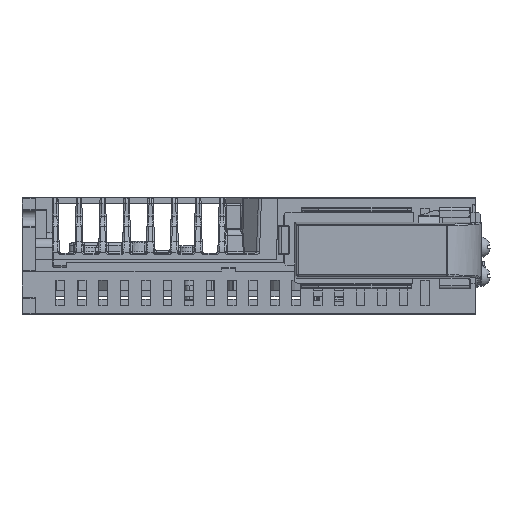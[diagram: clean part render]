
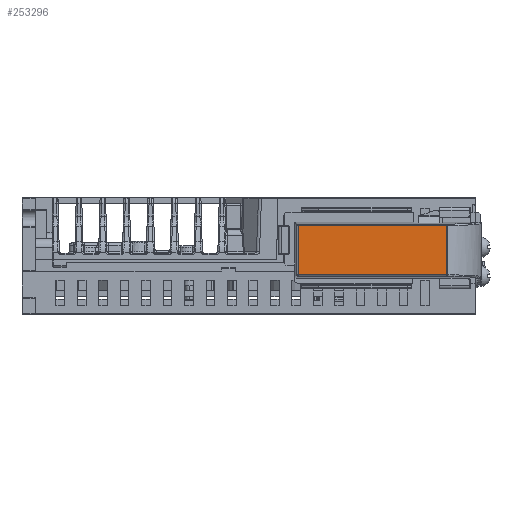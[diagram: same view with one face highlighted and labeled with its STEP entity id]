
A CAD part, left-side view. The second image highlights one B-rep face of the part: STEP entity #253296.
In plain terms, the highlighted planar face has unit normal (-1, 0, 0) as drawn and (0, 1, 0) by its records, which use the part's own axes.
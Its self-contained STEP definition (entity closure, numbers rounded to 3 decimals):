
#251938=DIRECTION('',(1.,0.,0.));
#251939=VECTOR('',#251938,51.19);
#251940=CARTESIAN_POINT('',(1.167,21.,-8.433));
#251941=LINE('',#251940,#251939);
#251945=DIRECTION('',(0.,0.,-1.));
#251946=VECTOR('',#251945,16.865);
#251947=CARTESIAN_POINT('',(52.357,21.,8.433));
#251948=LINE('',#251947,#251946);
#251952=DIRECTION('',(-1.,0.,0.));
#251953=VECTOR('',#251952,51.19);
#251954=CARTESIAN_POINT('',(52.357,21.,8.433));
#251955=LINE('',#251954,#251953);
#251959=DIRECTION('',(0.,0.,-1.));
#251960=VECTOR('',#251959,16.865);
#251961=CARTESIAN_POINT('',(1.167,21.,8.433));
#251962=LINE('',#251961,#251960);
#252442=CARTESIAN_POINT('',(52.357,21.,-8.433));
#252443=VERTEX_POINT('',#252442);
#252446=CARTESIAN_POINT('',(1.167,21.,-8.433));
#252447=VERTEX_POINT('',#252446);
#252452=CARTESIAN_POINT('',(1.167,21.,8.433));
#252453=VERTEX_POINT('',#252452);
#252458=CARTESIAN_POINT('',(52.357,21.,8.433));
#252459=VERTEX_POINT('',#252458);
#253284=CARTESIAN_POINT('',(52.5,21.,-9.6));
#253285=DIRECTION('',(0.,1.,0.));
#253286=DIRECTION('',(-1.,0.,0.));
#253287=AXIS2_PLACEMENT_3D('',#253284,#253285,#253286);
#253288=PLANE('',#253287);
#253289=ORIENTED_EDGE('',*,*,#253241,.T.);
#253290=ORIENTED_EDGE('',*,*,#253268,.F.);
#253291=ORIENTED_EDGE('',*,*,#252911,.T.);
#253293=ORIENTED_EDGE('',*,*,#253292,.T.);
#253294=EDGE_LOOP('',(#253289,#253290,#253291,#253293));
#253295=FACE_OUTER_BOUND('',#253294,.F.);
#252911=EDGE_CURVE('',#252459,#252453,#251955,.T.);
#253241=EDGE_CURVE('',#252447,#252443,#251941,.T.);
#253268=EDGE_CURVE('',#252459,#252443,#251948,.T.);
#253292=EDGE_CURVE('',#252453,#252447,#251962,.T.);
#253296=ADVANCED_FACE('',(#253295),#253288,.T.);
